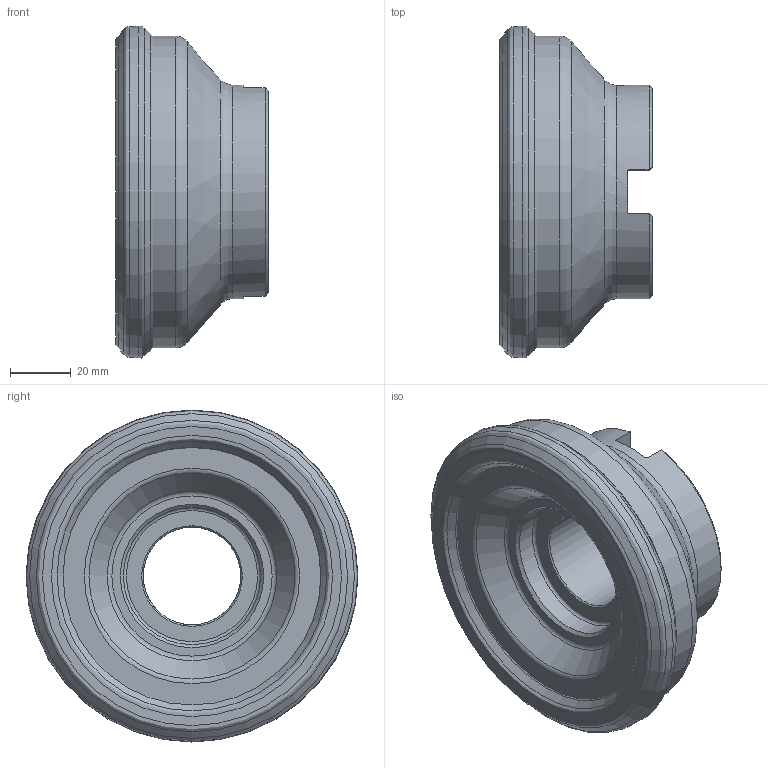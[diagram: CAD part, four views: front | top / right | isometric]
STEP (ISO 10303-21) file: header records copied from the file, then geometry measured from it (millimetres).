
FILE_DESCRIPTION(/* description */ (''),/* implementation_level */ '2;1');
FILE_NAME(/* name */ 'Stp.stp',/* time_stamp */ '2021-03-16T01:04:49+08:00',/* author */ (''),/* organization */ (''),/* preprocessor_version */ 'ST-DEVELOPER v16.7',/* originating_system */ 'SIEMENS PLM Software NX 12.0',/* authorisation */ '');
FILE_SCHEMA (('AUTOMOTIVE_DESIGN { 1 0 10303 214 3 1 1 1 }'));
Length unit declared in the file: millimetre
Products named in the file (2): OFKT05T3-DF; FMA04-100-B32-OF05-07_S
Assembly tree (7 placements, depth 2):
  FMA04-100-B32-OF05-07_S
    OFKT05T3-DF  x7
Bounding box: 49.95 x 108.85 x 108.87 mm (x, y, z)
Volume: 266168.9 mm3; surface area: 43417.5 mm2
Topology: 2 solids, 2 shells, 69 faces, 163 edges, 98 vertices
Faces by surface type: plane 18, revolution 16, cone 14, torus 13, cylinder 8
Full cylindrical faces by diameter (mm): 32 x1, 45 x1, 70 x1, 102.224 x1
Entity records: 2196 total; most frequent: CARTESIAN_POINT 683, DIRECTION 278, ORIENTED_EDGE 214, AXIS2_PLACEMENT_3D 119, EDGE_LOOP 112, EDGE_CURVE 107, FACE_BOUND 88, VERTEX_POINT 83
